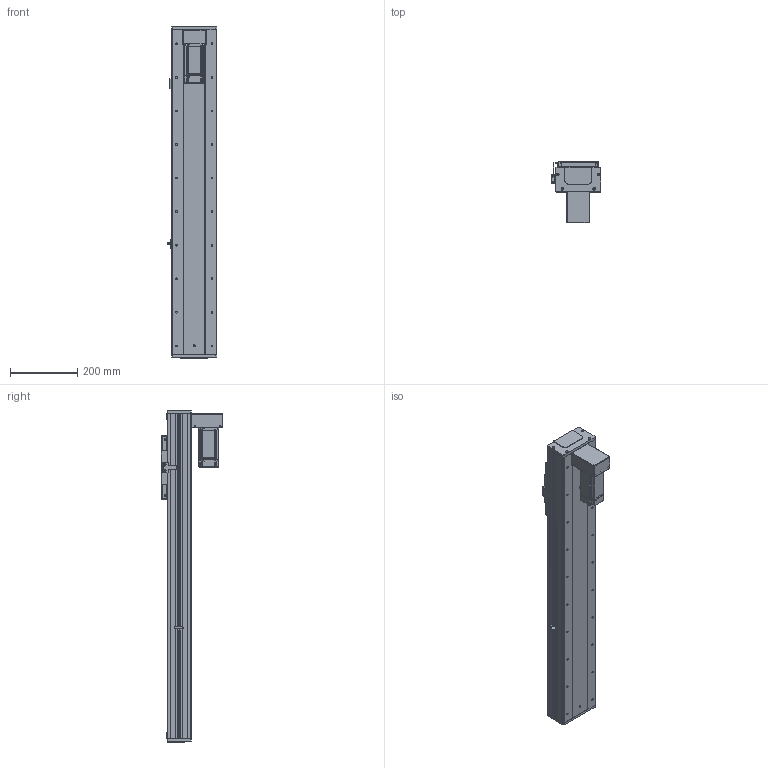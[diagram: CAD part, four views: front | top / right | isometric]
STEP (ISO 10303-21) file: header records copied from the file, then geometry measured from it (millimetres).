
FILE_DESCRIPTION (( 'STEP AP203' ), '1' );
FILE_NAME ('RY140F-L2020-300-BK.SLDASM_700.step', '2021-03-02T08:26:55', ( '盈信电脑' ), ( '东莞市道滘镇水果街19号' ), 'SwSTEP 2.0', 'SolidWorks 2012', '' );
FILE_SCHEMA (( 'CONFIG_CONTROL_DESIGN' ));
Length unit declared in the file: millimetre
Products named in the file (21): RY140F-L2020-300-BK.SLDASM_700; RY140F-直连型材铝滑块(16丝杆); 滅袉蝶18-10; RY140F-狟殏萇儂欶(400W); RY140F-狟殏萇儂啣(400W M5); RY140F-詩湍嘐隅輸; 侐源滅袉蝶; RY140F-672覜茼んえ; 覜茼ん672; RY140F-詩湍揤え; 侂狟400W侜督萇儂; RY140F-后盖板(铝件）; RY100F-詩湍揤踡謫; 15; RY140F-滅鳥奻裔; RY140F-詩湍幗謫粣; RY140F-直连型材铝滑块连接座; 藻笠沭; RY140F-300-BK倰第奻裔啣_700; RY140F-300-BK蛌殏詩湍_700; RY140F-300-BK倰第菁釱_700
Assembly tree (26 placements, depth 3):
  RY140F-L2020-300-BK.SLDASM_700
    RY140F-300-BK倰第菁釱_700
    RY140F-300-BK倰第奻裔啣_700  x2
    RY140F-300-BK蛌殏詩湍_700
    RY140F-直连型材铝滑块连接座
    RY140F-滅鳥奻裔
    RY140F-詩湍幗謫粣
    藻笠沭  x2
    RY100F-詩湍揤踡謫
    RY140F-后盖板(铝件）  x2
    侂狟400W侜督萇儂
      15
    覜茼ん672
    RY140F-672覜茼んえ
    RY140F-詩湍揤え  x2
    侐源滅袉蝶  x2
    RY140F-狟殏萇儂啣(400W M5)
    RY140F-狟殏萇儂欶(400W)
    RY140F-詩湍嘐隅輸
    滅袉蝶18-10  x2
    RY140F-直连型材铝滑块(16丝杆)
Bounding box: 148.7 x 184.5 x 989 mm (x, y, z)
Volume: 3924225 mm3; surface area: 1392622.3 mm2
Topology: 25 solids, 25 shells, 2020 faces, 5528 edges, 3526 vertices
Faces by surface type: cylinder 979, plane 811, cone 204, bspline 22, torus 4
Entity records: 63612 total; most frequent: CARTESIAN_POINT 13373, DIRECTION 10143, ORIENTED_EDGE 9876, EDGE_CURVE 4938, AXIS2_PLACEMENT_3D 3624, VERTEX_POINT 3230, VECTOR 2895, LINE 2895
